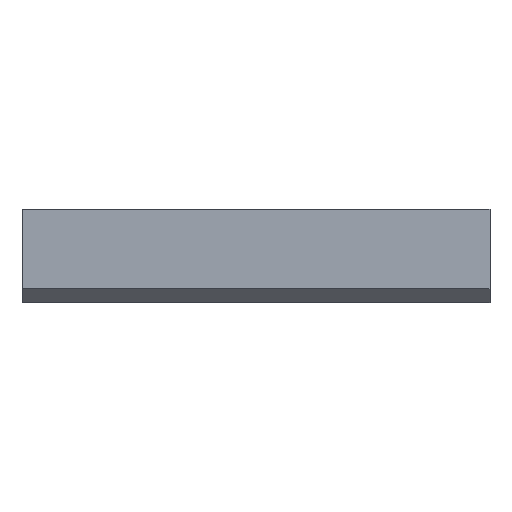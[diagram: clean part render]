
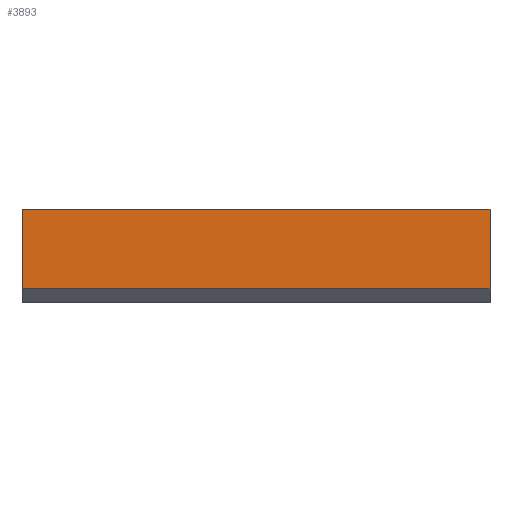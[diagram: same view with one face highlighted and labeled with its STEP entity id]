
A CAD part, front view. The second image highlights one B-rep face of the part: STEP entity #3893.
In plain terms, the highlighted planar face has unit normal (0, -1, 0).
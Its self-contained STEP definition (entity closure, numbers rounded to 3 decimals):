
#79 = CARTESIAN_POINT ( 'NONE',  ( 50., 0., 3. ) ) ;
#302 = CARTESIAN_POINT ( 'NONE',  ( 0., 0., 20. ) ) ;
#507 = CARTESIAN_POINT ( 'NONE',  ( 50., 0., 20. ) ) ;
#516 = DIRECTION ( 'NONE',  ( 0., -1., 0. ) ) ;
#610 = VERTEX_POINT ( 'NONE', #4023 ) ;
#758 = CARTESIAN_POINT ( 'NONE',  ( 0., 0., 11.5 ) ) ;
#769 = ORIENTED_EDGE ( 'NONE', *, *, #3196, .T. ) ;
#1130 = LINE ( 'NONE', #79, #2818 ) ;
#1148 = EDGE_LOOP ( 'NONE', ( #769, #2421, #3005, #3409 ) ) ;
#1310 = VERTEX_POINT ( 'NONE', #302 ) ;
#1979 = VECTOR ( 'NONE', #2524, 1000. ) ;
#2026 = LINE ( 'NONE', #507, #3793 ) ;
#2421 = ORIENTED_EDGE ( 'NONE', *, *, #3474, .F. ) ;
#2524 = DIRECTION ( 'NONE',  ( 0., 0., 1. ) ) ;
#2681 = CARTESIAN_POINT ( 'NONE',  ( 0., 0., 0. ) ) ;
#2815 = VECTOR ( 'NONE', #3255, 1000. ) ;
#2818 = VECTOR ( 'NONE', #4657, 1000. ) ;
#2913 = LINE ( 'NONE', #4648, #1979 ) ;
#2996 = EDGE_CURVE ( 'NONE', #610, #3999, #1130, .T. ) ;
#3005 = ORIENTED_EDGE ( 'NONE', *, *, #3217, .F. ) ;
#3020 = PLANE ( 'NONE',  #3108 ) ;
#3033 = DIRECTION ( 'NONE',  ( 0., 0., -1. ) ) ;
#3108 = AXIS2_PLACEMENT_3D ( 'NONE', #2681, #516, #3033 ) ;
#3196 = EDGE_CURVE ( 'NONE', #3999, #4076, #2913, .T. ) ;
#3217 = EDGE_CURVE ( 'NONE', #610, #1310, #3624, .T. ) ;
#3255 = DIRECTION ( 'NONE',  ( 0., 0., 1. ) ) ;
#3409 = ORIENTED_EDGE ( 'NONE', *, *, #2996, .T. ) ;
#3445 = CARTESIAN_POINT ( 'NONE',  ( 100., 0., 20. ) ) ;
#3474 = EDGE_CURVE ( 'NONE', #1310, #4076, #2026, .T. ) ;
#3624 = LINE ( 'NONE', #758, #2815 ) ;
#3678 = FACE_OUTER_BOUND ( 'NONE', #1148, .T. ) ;
#3771 = CARTESIAN_POINT ( 'NONE',  ( 100., 0., 3. ) ) ;
#3793 = VECTOR ( 'NONE', #4431, 1000. ) ;
#3893 = ADVANCED_FACE ( 'NONE', ( #3678 ), #3020, .T. ) ;
#3999 = VERTEX_POINT ( 'NONE', #3771 ) ;
#4023 = CARTESIAN_POINT ( 'NONE',  ( 0., 0., 3. ) ) ;
#4076 = VERTEX_POINT ( 'NONE', #3445 ) ;
#4431 = DIRECTION ( 'NONE',  ( 1., 0., 0. ) ) ;
#4648 = CARTESIAN_POINT ( 'NONE',  ( 100., 0., 11.5 ) ) ;
#4657 = DIRECTION ( 'NONE',  ( 1., 0., 0. ) ) ;
